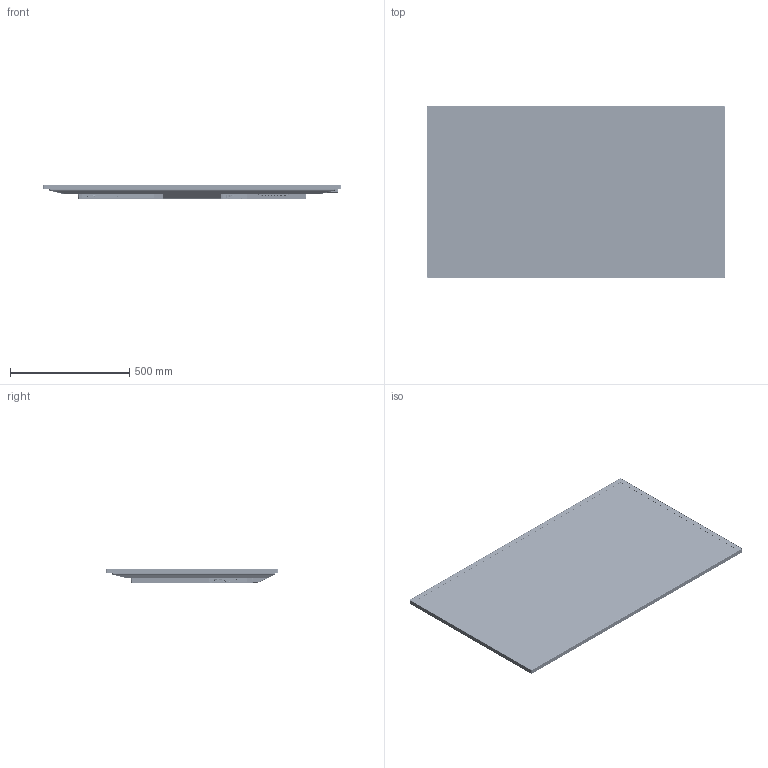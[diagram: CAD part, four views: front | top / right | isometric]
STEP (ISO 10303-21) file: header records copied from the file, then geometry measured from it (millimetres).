
FILE_DESCRIPTION (( 'STEP AP203' ), '1' );
FILE_NAME ('SLM552-T Panel 3D 122023.STEP', '2023-12-21T00:21:04', ( '' ), ( '' ), 'SwSTEP 2.0', 'SolidWorks 2023', '' );
FILE_SCHEMA (( 'CONFIG_CONTROL_DESIGN' ));
Products named in the file (1): SLM552-T Panel 3D 122023
Bounding box: 1254.4 x 725.7 x 62.79 mm (x, y, z)
Volume: 5243538.7 mm3; surface area: 8176141.2 mm2
Topology: 153 solids, 179 shells, 32324 faces, 89977 edges, 57042 vertices
Faces by surface type: plane 21398, cylinder 7488, bspline 2441, cone 467, torus 430, sphere 100
Entity records: 1261803 total; most frequent: CARTESIAN_POINT 455210, ORIENTED_EDGE 179850, DIRECTION 149231, EDGE_CURVE 89925, VECTOR 66595, LINE 66595, VERTEX_POINT 57032, AXIS2_PLACEMENT_3D 41318
